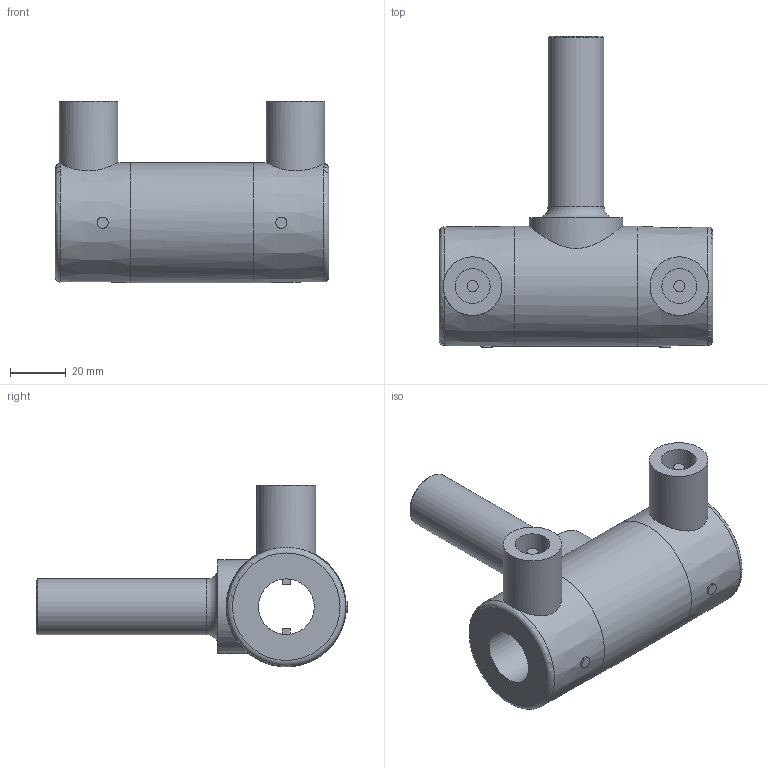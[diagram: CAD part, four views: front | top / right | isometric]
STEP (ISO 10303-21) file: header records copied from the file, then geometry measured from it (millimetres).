
FILE_DESCRIPTION(/* description */ ('Unknown'),/* implementation_level */ '2;1');
FILE_NAME(/* name */ 'TEP020C',/* time_stamp */ '2020-12-09T17:51:58+01:00',/* author */ ('Unknown'),/* organization */ ('Unknown'),/* preprocessor_version */ 'ST-DEVELOPER v16.7',/* originating_system */ 'Solid Edge',/* authorisation */ 'Unknown');
FILE_SCHEMA (('AUTOMOTIVE_DESIGN {1 0 10303 214 3 1 1}'));
Length unit declared in the file: millimetre
Products named in the file (1): TEP020C
Bounding box: 98 x 111.5 x 65 mm (x, y, z)
Volume: 131452.6 mm3; surface area: 34530.9 mm2
Topology: 1 solids, 1 shells, 41 faces, 91 edges, 61 vertices
Faces by surface type: plane 22, cylinder 13, cone 3, torus 3
Full cylindrical faces by diameter (mm): 4 x4, 12.5 x2, 16 x1, 20 x2, 21 x2, 33.5 x1, 43 x1
Entity records: 1069 total; most frequent: CARTESIAN_POINT 269, DIRECTION 164, ORIENTED_EDGE 116, EDGE_LOOP 74, FACE_BOUND 74, AXIS2_PLACEMENT_3D 72, EDGE_CURVE 58, VERTEX_POINT 48
